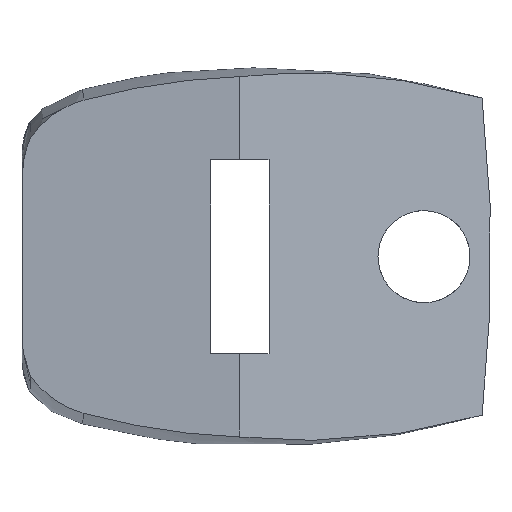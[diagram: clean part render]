
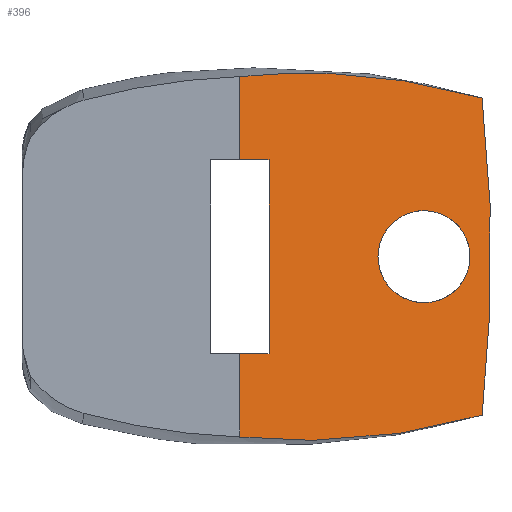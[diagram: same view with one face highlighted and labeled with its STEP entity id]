
A CAD part, left-side view. The second image highlights one B-rep face of the part: STEP entity #396.
In plain terms, the highlighted planar face has unit normal (-0.866, -0.5, 0).
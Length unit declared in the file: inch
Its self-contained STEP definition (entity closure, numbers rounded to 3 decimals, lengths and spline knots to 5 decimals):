
#31=FACE_BOUND('',#92,.T.);
#34=ELLIPSE('',#418,3.24954,2.86984);
#35=ELLIPSE('',#419,0.1097,0.095);
#44=B_SPLINE_CURVE_WITH_KNOTS('',3,(#552,#553,#554,#555,#556,#557,#558),
 .UNSPECIFIED.,.F.,.F.,(4,3,4),(-1.10736,-0.80846,0.),
 .UNSPECIFIED.);
#45=B_SPLINE_CURVE_WITH_KNOTS('',3,(#562,#563,#564,#565),.UNSPECIFIED.,
 .F.,.F.,(4,4),(-1.80242,0.),.UNSPECIFIED.);
#72=FACE_OUTER_BOUND('',#91,.T.);
#91=EDGE_LOOP('',(#279,#280,#281,#282,#283,#284,#285,#286));
#92=EDGE_LOOP('',(#287));
#109=LINE('',#519,#131);
#113=LINE('',#527,#135);
#121=LINE('',#543,#143);
#125=LINE('',#550,#147);
#126=LINE('',#566,#148);
#131=VECTOR('',#443,0.3937);
#135=VECTOR('',#449,0.3937);
#143=VECTOR('',#461,0.3937);
#147=VECTOR('',#467,0.3937);
#148=VECTOR('',#470,0.3937);
#153=VERTEX_POINT('',#517);
#154=VERTEX_POINT('',#518);
#157=VERTEX_POINT('',#526);
#163=VERTEX_POINT('',#542);
#165=VERTEX_POINT('',#549);
#166=VERTEX_POINT('',#551);
#167=VERTEX_POINT('',#559);
#168=VERTEX_POINT('',#561);
#169=VERTEX_POINT('',#567);
#197=EDGE_CURVE('',#153,#154,#109,.T.);
#201=EDGE_CURVE('',#154,#157,#113,.T.);
#209=EDGE_CURVE('',#163,#153,#121,.T.);
#213=EDGE_CURVE('',#165,#157,#125,.T.);
#214=EDGE_CURVE('',#166,#165,#44,.T.);
#215=EDGE_CURVE('',#167,#166,#34,.T.);
#216=EDGE_CURVE('',#168,#167,#45,.T.);
#217=EDGE_CURVE('',#163,#168,#126,.T.);
#218=EDGE_CURVE('',#169,#169,#35,.T.);
#279=ORIENTED_EDGE('',*,*,#209,.T.);
#280=ORIENTED_EDGE('',*,*,#197,.T.);
#281=ORIENTED_EDGE('',*,*,#201,.T.);
#282=ORIENTED_EDGE('',*,*,#213,.F.);
#283=ORIENTED_EDGE('',*,*,#214,.F.);
#284=ORIENTED_EDGE('',*,*,#215,.F.);
#285=ORIENTED_EDGE('',*,*,#216,.F.);
#286=ORIENTED_EDGE('',*,*,#217,.F.);
#287=ORIENTED_EDGE('',*,*,#218,.F.);
#387=PLANE('',#417);
#396=ADVANCED_FACE('',(#72,#31),#387,.F.);
#417=AXIS2_PLACEMENT_3D('',#548,#465,#466);
#418=AXIS2_PLACEMENT_3D('',#560,#468,#469);
#419=AXIS2_PLACEMENT_3D('',#568,#471,#472);
#443=DIRECTION('',(0.,0.,-1.));
#449=DIRECTION('',(-0.5,0.866,0.));
#461=DIRECTION('',(0.5,-0.866,0.));
#465=DIRECTION('center_axis',(0.866,0.5,0.));
#466=DIRECTION('ref_axis',(0.,0.,-1.));
#467=DIRECTION('',(0.,0.,1.));
#468=DIRECTION('center_axis',(0.866,0.5,0.));
#469=DIRECTION('ref_axis',(0.5,-0.866,-0.001));
#470=DIRECTION('',(0.,0.,1.));
#471=DIRECTION('center_axis',(-0.866,-0.5,0.));
#472=DIRECTION('ref_axis',(0.5,-0.866,0.));
#517=CARTESIAN_POINT('',(0.03464,-0.06,0.2));
#518=CARTESIAN_POINT('',(0.03464,-0.06,-0.2));
#519=CARTESIAN_POINT('',(0.03464,-0.06,0.));
#526=CARTESIAN_POINT('',(0.,0.,-0.2));
#527=CARTESIAN_POINT('',(0.14964,-0.25918,-0.2));
#542=CARTESIAN_POINT('',(0.,0.,0.2));
#543=CARTESIAN_POINT('',(0.14964,-0.25918,0.2));
#548=CARTESIAN_POINT('Origin',(0.14928,-0.25856,0.));
#549=CARTESIAN_POINT('',(0.,0.,-0.37237));
#550=CARTESIAN_POINT('',(0.,0.,-0.00009));
#551=CARTESIAN_POINT('',(0.28868,-0.5,-0.32726));
#552=CARTESIAN_POINT('Ctrl Pts',(0.28868,-0.5,-0.32726));
#553=CARTESIAN_POINT('Ctrl Pts',(0.25837,-0.44751,-0.34281));
#554=CARTESIAN_POINT('Ctrl Pts',(0.22865,-0.39604,-0.35415));
#555=CARTESIAN_POINT('Ctrl Pts',(0.2,-0.34641,-0.36213));
#556=CARTESIAN_POINT('Ctrl Pts',(0.1225,-0.21218,-0.38371));
#557=CARTESIAN_POINT('Ctrl Pts',(0.05282,-0.09148,
-0.38228));
#558=CARTESIAN_POINT('Ctrl Pts',(0.,0.,
-0.37237));
#559=CARTESIAN_POINT('',(0.28868,-0.5,0.32724));
#560=CARTESIAN_POINT('Origin',(-1.3255,2.29583,0.00057));
#561=CARTESIAN_POINT('',(0.,0.,0.37188));
#562=CARTESIAN_POINT('Ctrl Pts',(0.,0.,
0.37188));
#563=CARTESIAN_POINT('Ctrl Pts',(0.06612,-0.11452,
0.38452));
#564=CARTESIAN_POINT('Ctrl Pts',(0.17413,-0.30161,0.38615));
#565=CARTESIAN_POINT('Ctrl Pts',(0.28868,-0.5,0.32724));
#566=CARTESIAN_POINT('',(0.,0.,-0.00009));
#567=CARTESIAN_POINT('',(0.16454,-0.285,0.));
#568=CARTESIAN_POINT('Origin',(0.21939,-0.38,0.));
